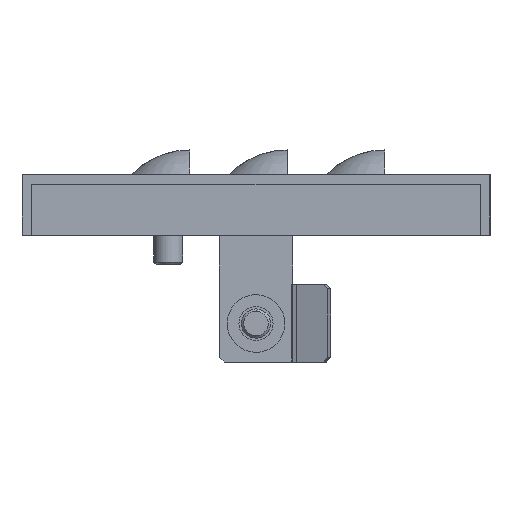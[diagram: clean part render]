
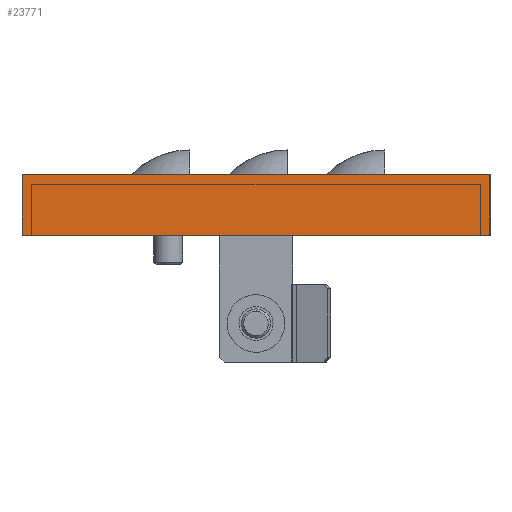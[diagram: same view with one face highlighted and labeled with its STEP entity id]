
A CAD part, left-side view. The second image highlights one B-rep face of the part: STEP entity #23771.
In plain terms, the highlighted planar face has unit normal (-1, 0, 0).
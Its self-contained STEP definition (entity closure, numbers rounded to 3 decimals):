
#1786 = LINE ( 'NONE', #3720, #20579 ) ;
#1974 = CARTESIAN_POINT ( 'NONE',  ( -795., -96., 2.928 ) ) ;
#2295 = CARTESIAN_POINT ( 'NONE',  ( -795., -48., -2. ) ) ;
#2307 = EDGE_CURVE ( 'NONE', #14140, #21453, #12158, .T. ) ;
#3103 = CARTESIAN_POINT ( 'NONE',  ( -795., -48., 0. ) ) ;
#3329 = LINE ( 'NONE', #7057, #22652 ) ;
#3574 = CARTESIAN_POINT ( 'NONE',  ( -795., -96., 0. ) ) ;
#3720 = CARTESIAN_POINT ( 'NONE',  ( -795., -48., -12.5 ) ) ;
#3867 = DIRECTION ( 'NONE',  ( 1., 0., 0. ) ) ;
#4101 = DIRECTION ( 'NONE',  ( 0., 1., 0. ) ) ;
#4559 = VECTOR ( 'NONE', #5040, 1000. ) ;
#5040 = DIRECTION ( 'NONE',  ( 0., 1., 0. ) ) ;
#6551 = VECTOR ( 'NONE', #7176, 1000. ) ;
#7007 = ORIENTED_EDGE ( 'NONE', *, *, #22404, .T. ) ;
#7057 = CARTESIAN_POINT ( 'NONE',  ( -795., 0., 2.928 ) ) ;
#7176 = DIRECTION ( 'NONE',  ( 0., 0., -1. ) ) ;
#7711 = FACE_OUTER_BOUND ( 'NONE', #23945, .T. ) ;
#10293 = EDGE_CURVE ( 'NONE', #19757, #15902, #3329, .T. ) ;
#10878 = ORIENTED_EDGE ( 'NONE', *, *, #17658, .T. ) ;
#12158 = LINE ( 'NONE', #1974, #6551 ) ;
#14131 = LINE ( 'NONE', #3103, #4559 ) ;
#14140 = VERTEX_POINT ( 'NONE', #3574 ) ;
#14786 = PLANE ( 'NONE',  #22030 ) ;
#15531 = ORIENTED_EDGE ( 'NONE', *, *, #2307, .F. ) ;
#15902 = VERTEX_POINT ( 'NONE', #22170 ) ;
#17658 = EDGE_CURVE ( 'NONE', #15902, #21453, #1786, .T. ) ;
#19757 = VERTEX_POINT ( 'NONE', #22909 ) ;
#20551 = ORIENTED_EDGE ( 'NONE', *, *, #10293, .T. ) ;
#20578 = DIRECTION ( 'NONE',  ( 0., -1., 0. ) ) ;
#20579 = VECTOR ( 'NONE', #20578, 1000. ) ;
#21144 = CARTESIAN_POINT ( 'NONE',  ( -795., -96., -12.5 ) ) ;
#21453 = VERTEX_POINT ( 'NONE', #21144 ) ;
#21655 = DIRECTION ( 'NONE',  ( 0., 0., -1. ) ) ;
#22030 = AXIS2_PLACEMENT_3D ( 'NONE', #2295, #3867, #4101 ) ;
#22170 = CARTESIAN_POINT ( 'NONE',  ( -795., 0., -12.5 ) ) ;
#22404 = EDGE_CURVE ( 'NONE', #14140, #19757, #14131, .T. ) ;
#22652 = VECTOR ( 'NONE', #21655, 1000. ) ;
#22909 = CARTESIAN_POINT ( 'NONE',  ( -795., 0., 0. ) ) ;
#23771 = ADVANCED_FACE ( 'NONE', ( #7711 ), #14786, .F. ) ;
#23945 = EDGE_LOOP ( 'NONE', ( #7007, #20551, #10878, #15531 ) ) ;
